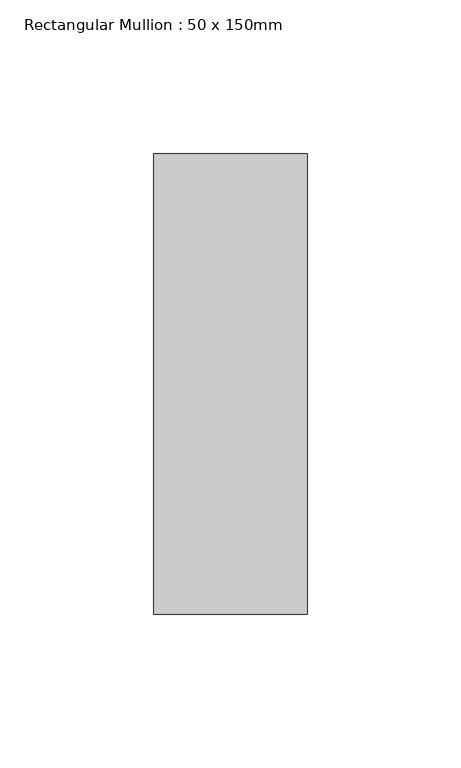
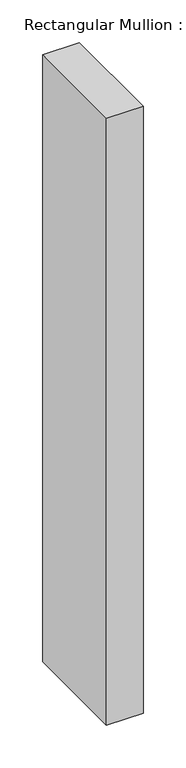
"""IFC4 building model written with IfcOpenShell, lengths in millimetres: member geometry, Rectangular Mullion : 50 x 150mm."""

from ifc_helpers import new_model, si_unit, frame, origin, place, context, project, spatial, polyline, outline, extrude, source, transform, mapped, element, save


def rectangular_mullion_50_x_150mm_592ffe93(model_context):
    return source(origin(), model_context, "Body", "SweptSolid", [
        extrude(outline(polyline([(0.0, 75.0), (0.0, -75.0), (-50.0, -75.0), (-50.0, 75.0), (0.0, 75.0)])), frame((0.0, 0.0, -870.0361668), z_axis=(0.0, 0.0, 1.0), x_axis=(1.0, 0.0, 0.0)), (0.0, 0.0, 1.0), 870.0361668),
    ])


if __name__ == "__main__":
    model = new_model("IFC4")
    model_context = context("Model", 3, world=origin())
    ifc_project = project(units=[si_unit("LENGTHUNIT", "METRE", prefix="MILLI")], contexts=[model_context])
    site = spatial("IfcSite", under=ifc_project)
    building = spatial("IfcBuilding", under=site)
    placement = place(None, origin())
    rectangular_mullion_50_x_150mm_shape = rectangular_mullion_50_x_150mm_592ffe93(model_context)
    element("IfcMember", 1, ObjectType="Rectangular Mullion : 50 x 150mm", at=placement, inside=building, context=model_context, shape_type="MappedRepresentation", body=[
        mapped(rectangular_mullion_50_x_150mm_shape, transform((0.0, 0.0, 0.0), x_axis=(1.0, 0.0, 0.0), y_axis=(0.0, 1.0, 0.0), z_axis=(0.0, 0.0, 1.0))),
    ])
    save(model, "model.ifc")
